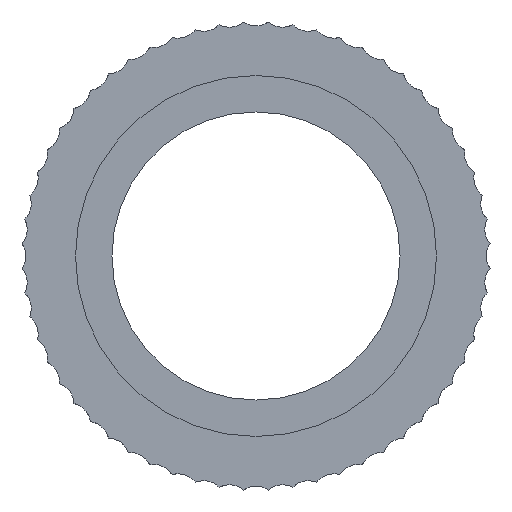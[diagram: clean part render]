
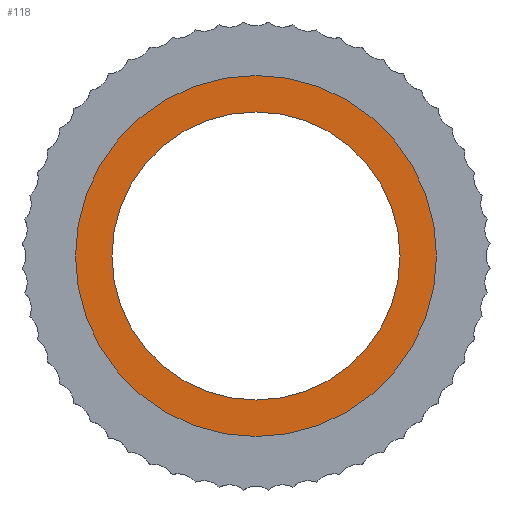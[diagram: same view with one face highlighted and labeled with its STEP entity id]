
A CAD part, left-side view. The second image highlights one B-rep face of the part: STEP entity #118.
In plain terms, the highlighted planar face has unit normal (-1, 0, 0).
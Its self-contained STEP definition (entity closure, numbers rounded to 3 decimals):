
#118 = ADVANCED_FACE( '', ( #283, #284 ), #285, .F. );
#283 = FACE_OUTER_BOUND( '', #494, .T. );
#284 = FACE_BOUND( '', #495, .T. );
#285 = PLANE( '', #496 );
#494 = EDGE_LOOP( '', ( #822 ) );
#495 = EDGE_LOOP( '', ( #823 ) );
#496 = AXIS2_PLACEMENT_3D( '', #824, #825, #826 );
#822 = ORIENTED_EDGE( '', *, *, #1401, .T. );
#823 = ORIENTED_EDGE( '', *, *, #1402, .F. );
#824 = CARTESIAN_POINT( '', ( 22.5, 0., 0. ) );
#825 = DIRECTION( '', ( 1., 0., 0. ) );
#826 = DIRECTION( '', ( 0., 0., -1. ) );
#1401 = EDGE_CURVE( '', #1738, #1738, #1739, .T. );
#1402 = EDGE_CURVE( '', #1740, #1740, #1741, .F. );
#1738 = VERTEX_POINT( '', #2678 );
#1739 = CIRCLE( '', #2679, 8.459 );
#1740 = VERTEX_POINT( '', #2680 );
#1741 = CIRCLE( '', #2681, 6.75 );
#2678 = CARTESIAN_POINT( '', ( 22.5, 0., 8.459 ) );
#2679 = AXIS2_PLACEMENT_3D( '', #2957, #2958, #2959 );
#2680 = CARTESIAN_POINT( '', ( 22.5, 0., -6.75 ) );
#2681 = AXIS2_PLACEMENT_3D( '', #2960, #2961, #2962 );
#2957 = CARTESIAN_POINT( '', ( 22.5, 0., 0. ) );
#2958 = DIRECTION( '', ( -1., 0., 0. ) );
#2959 = DIRECTION( '', ( 0., 0., 1. ) );
#2960 = CARTESIAN_POINT( '', ( 22.5, 0., 0. ) );
#2961 = DIRECTION( '', ( 1., 0., 0. ) );
#2962 = DIRECTION( '', ( 0., 0., -1. ) );
